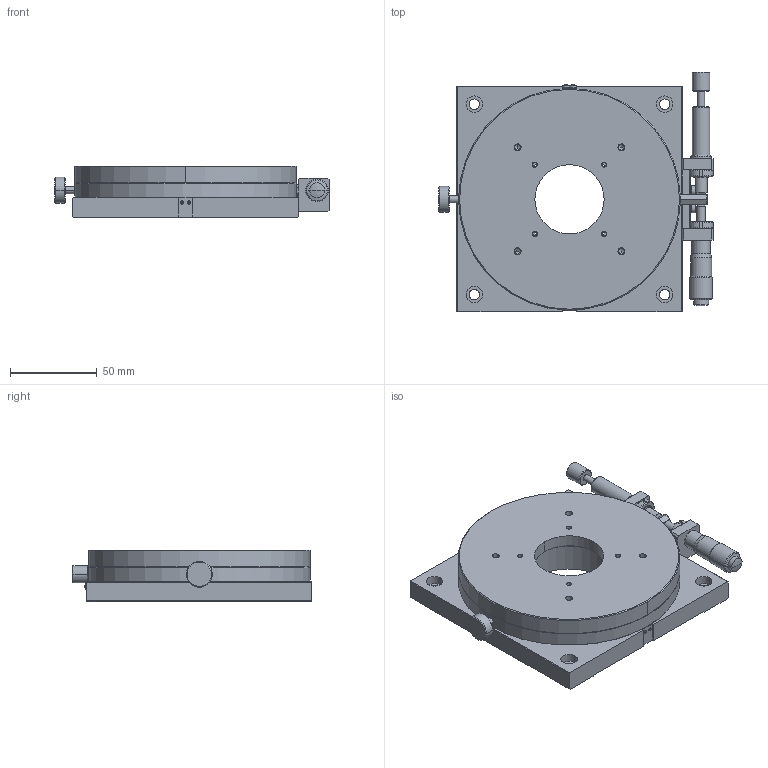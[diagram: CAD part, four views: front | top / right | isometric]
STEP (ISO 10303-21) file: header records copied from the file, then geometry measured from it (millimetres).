
FILE_DESCRIPTION (( 'STEP AP214' ), '1' );
FILE_NAME ('RM13A-C1-R.STEP', '2007-08-01T04:10:32', ( ' ' ), ( ' ' ), 'SwSTEP 2.0', 'SolidWorks 2006052', '' );
FILE_SCHEMA (( 'AUTOMOTIVE_DESIGN' ));
Length unit declared in the file: millimetre
Products named in the file (8): 000290-1130(3D)-9; MICROMETERHEAD(MHS4-13)spindle-5; RM13A-C1-R; CRBS708VUUT1-1; 003480-1010(3D)-1; 003440-1030(3D)-1; 003070-1150(3D)-13; 003480-1020(3D)-1
Assembly tree (7 placements, depth 2):
  RM13A-C1-R
    003070-1150(3D)-13
    003480-1020(3D)-1
    003480-1010(3D)-1
    MICROMETERHEAD(MHS4-13)spindle-5
    CRBS708VUUT1-1
    000290-1130(3D)-9
    003440-1030(3D)-1
Bounding box: 158.5 x 138.5 x 30 mm (x, y, z)
Volume: 361032.7 mm3; surface area: 124358 mm2
Topology: 7 solids, 44 shells, 1159 faces, 2541 edges, 1468 vertices
Faces by surface type: plane 449, cylinder 383, cone 301, sphere 14, torus 12
Entity records: 31481 total; most frequent: DIRECTION 5888, CARTESIAN_POINT 5467, ORIENTED_EDGE 4910, EDGE_CURVE 2455, AXIS2_PLACEMENT_3D 2308, VERTEX_POINT 1468, EDGE_LOOP 1327, VECTOR 1272
